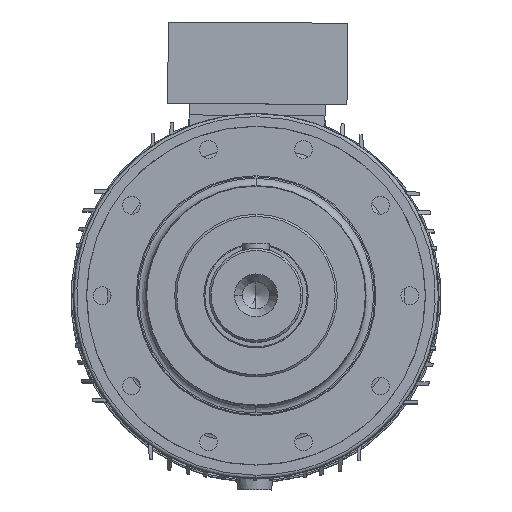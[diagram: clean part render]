
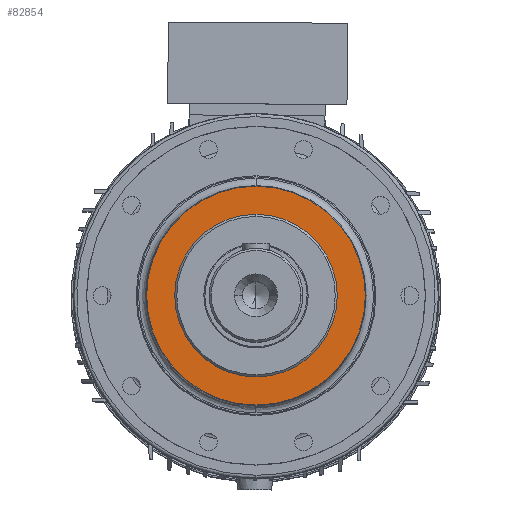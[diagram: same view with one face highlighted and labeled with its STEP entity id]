
A CAD part, top view. The second image highlights one B-rep face of the part: STEP entity #82854.
In plain terms, the highlighted planar face has unit normal (0, 0, 1).
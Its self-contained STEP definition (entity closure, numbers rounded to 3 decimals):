
#12615 = DIRECTION ( 'NONE',  ( 0., 0., -1. ) ) ;
#12628 = CARTESIAN_POINT ( 'NONE',  ( 0., 0., 181. ) ) ;
#12632 = DIRECTION ( 'NONE',  ( 0., 1., 0. ) ) ;
#12857 = DIRECTION ( 'NONE',  ( 0., 1., 0. ) ) ;
#12879 = CARTESIAN_POINT ( 'NONE',  ( 0., 0., 181. ) ) ;
#12890 = DIRECTION ( 'NONE',  ( 0., 0., -1. ) ) ;
#23069 = VERTEX_POINT ( 'NONE', #129242 ) ;
#23078 = VERTEX_POINT ( 'NONE', #129250 ) ;
#23099 = VERTEX_POINT ( 'NONE', #129456 ) ;
#23196 = VERTEX_POINT ( 'NONE', #129469 ) ;
#28110 = FACE_BOUND ( 'NONE', #31198, .T. ) ;
#28166 = FACE_OUTER_BOUND ( 'NONE', #30143, .T. ) ;
#30143 = EDGE_LOOP ( 'NONE', ( #48975, #48979 ) ) ;
#30286 = DIRECTION ( 'NONE',  ( 0., 0., 1. ) ) ;
#30297 = CARTESIAN_POINT ( 'NONE',  ( 0., 105., 181. ) ) ;
#30310 = DIRECTION ( 'NONE',  ( 0., -1., 0. ) ) ;
#30314 = PLANE ( 'NONE',  #121265 ) ;
#31198 = EDGE_LOOP ( 'NONE', ( #49008, #49041 ) ) ;
#39488 = EDGE_CURVE ( 'NONE', #23196, #23069, #93861, .T. ) ;
#39682 = EDGE_CURVE ( 'NONE', #23099, #23078, #101724, .T. ) ;
#39706 = EDGE_CURVE ( 'NONE', #23078, #23099, #101780, .T. ) ;
#39797 = EDGE_CURVE ( 'NONE', #23069, #23196, #102014, .T. ) ;
#48975 = ORIENTED_EDGE ( 'NONE', *, *, #39488, .F. ) ;
#48979 = ORIENTED_EDGE ( 'NONE', *, *, #39797, .F. ) ;
#49008 = ORIENTED_EDGE ( 'NONE', *, *, #39682, .T. ) ;
#49041 = ORIENTED_EDGE ( 'NONE', *, *, #39706, .T. ) ;
#68507 = CARTESIAN_POINT ( 'NONE',  ( 0., 0., 181. ) ) ;
#68509 = DIRECTION ( 'NONE',  ( 0., 1., 0. ) ) ;
#68552 = DIRECTION ( 'NONE',  ( 0., 0., -1. ) ) ;
#69082 = DIRECTION ( 'NONE',  ( 0., 1., 0. ) ) ;
#69091 = CARTESIAN_POINT ( 'NONE',  ( 0., 0., 181. ) ) ;
#69093 = DIRECTION ( 'NONE',  ( 0., 0., -1. ) ) ;
#77332 = AXIS2_PLACEMENT_3D ( 'NONE', #12628, #12615, #12632 ) ;
#77458 = AXIS2_PLACEMENT_3D ( 'NONE', #12879, #12890, #12857 ) ;
#77485 = AXIS2_PLACEMENT_3D ( 'NONE', #68507, #68552, #68509 ) ;
#77508 = AXIS2_PLACEMENT_3D ( 'NONE', #69091, #69093, #69082 ) ;
#82854 = ADVANCED_FACE ( 'NONE', ( #28166, #28110 ), #30314, .T. ) ;
#93861 = CIRCLE ( 'NONE', #77332, 105. ) ;
#101724 = CIRCLE ( 'NONE', #77458, 78. ) ;
#101780 = CIRCLE ( 'NONE', #77508, 78. ) ;
#102014 = CIRCLE ( 'NONE', #77485, 105. ) ;
#121265 = AXIS2_PLACEMENT_3D ( 'NONE', #30297, #30286, #30310 ) ;
#129242 = CARTESIAN_POINT ( 'NONE',  ( 0., -105., 181. ) ) ;
#129250 = CARTESIAN_POINT ( 'NONE',  ( 0., -78., 181. ) ) ;
#129456 = CARTESIAN_POINT ( 'NONE',  ( 0., 78., 181. ) ) ;
#129469 = CARTESIAN_POINT ( 'NONE',  ( 0., 105., 181. ) ) ;
